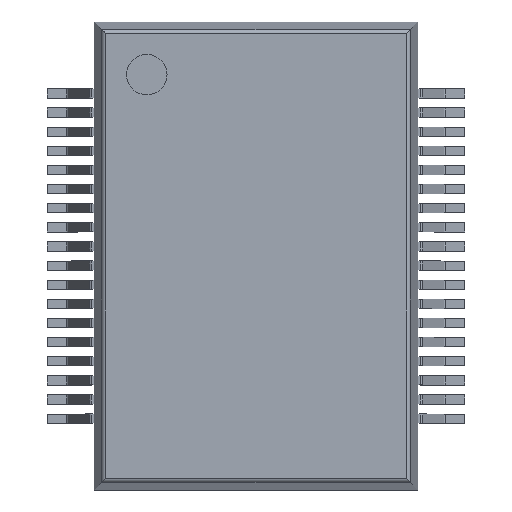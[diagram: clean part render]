
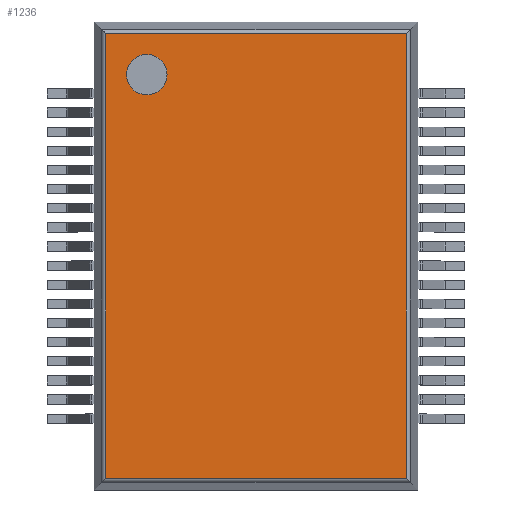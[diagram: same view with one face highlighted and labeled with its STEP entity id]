
A CAD part, top view. The second image highlights one B-rep face of the part: STEP entity #1236.
In plain terms, the highlighted planar face has unit normal (0, 0, 1).
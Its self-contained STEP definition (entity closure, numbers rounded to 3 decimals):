
#833 = CYLINDRICAL_SURFACE('',#834,0.14);
#834 = AXIS2_PLACEMENT_3D('',#835,#836,#837);
#835 = CARTESIAN_POINT('',(-5.105,-7.675,3.46));
#836 = DIRECTION('',(0.,1.,0.));
#837 = DIRECTION('',(-0.988,0.,0.156));
#975 = CYLINDRICAL_SURFACE('',#976,0.14);
#976 = AXIS2_PLACEMENT_3D('',#977,#978,#979);
#977 = CARTESIAN_POINT('',(-5.225,-7.555,3.46));
#978 = DIRECTION('',(1.,0.,0.));
#979 = DIRECTION('',(0.,-0.988,0.156));
#991 = VERTEX_POINT('',#992);
#992 = CARTESIAN_POINT('',(-5.105,-7.555,3.6));
#1026 = EDGE_CURVE('',#991,#1027,#1029,.T.);
#1027 = VERTEX_POINT('',#1028);
#1028 = CARTESIAN_POINT('',(-5.105,7.555,3.6));
#1029 = SURFACE_CURVE('',#1030,(#1034,#1041),.PCURVE_S1.);
#1030 = LINE('',#1031,#1032);
#1031 = CARTESIAN_POINT('',(-5.105,-7.675,3.6));
#1032 = VECTOR('',#1033,1.);
#1033 = DIRECTION('',(0.,1.,0.));
#1034 = PCURVE('',#833,#1035);
#1035 = DEFINITIONAL_REPRESENTATION('',(#1036),#1040);
#1036 = LINE('',#1037,#1038);
#1037 = CARTESIAN_POINT('',(1.414,0.));
#1038 = VECTOR('',#1039,1.);
#1039 = DIRECTION('',(0.,1.));
#1040 = ( GEOMETRIC_REPRESENTATION_CONTEXT(2) 
PARAMETRIC_REPRESENTATION_CONTEXT() REPRESENTATION_CONTEXT('2D SPACE',''
  ) );
#1041 = PCURVE('',#1042,#1047);
#1042 = PLANE('',#1043);
#1043 = AXIS2_PLACEMENT_3D('',#1044,#1045,#1046);
#1044 = CARTESIAN_POINT('',(-5.5,-7.95,3.6));
#1045 = DIRECTION('',(0.,0.,1.));
#1046 = DIRECTION('',(1.,0.,0.));
#1047 = DEFINITIONAL_REPRESENTATION('',(#1048),#1052);
#1048 = LINE('',#1049,#1050);
#1049 = CARTESIAN_POINT('',(0.395,0.275));
#1050 = VECTOR('',#1051,1.);
#1051 = DIRECTION('',(0.,1.));
#1052 = ( GEOMETRIC_REPRESENTATION_CONTEXT(2) 
PARAMETRIC_REPRESENTATION_CONTEXT() REPRESENTATION_CONTEXT('2D SPACE',''
  ) );
#1075 = CYLINDRICAL_SURFACE('',#1076,0.14);
#1076 = AXIS2_PLACEMENT_3D('',#1077,#1078,#1079);
#1077 = CARTESIAN_POINT('',(-5.225,7.555,3.46));
#1078 = DIRECTION('',(1.,0.,0.));
#1079 = DIRECTION('',(0.,0.,1.));
#1163 = CYLINDRICAL_SURFACE('',#1164,0.14);
#1164 = AXIS2_PLACEMENT_3D('',#1165,#1166,#1167);
#1165 = CARTESIAN_POINT('',(5.105,-7.675,3.46));
#1166 = DIRECTION('',(0.,1.,0.));
#1167 = DIRECTION('',(0.,0.,1.));
#1179 = EDGE_CURVE('',#991,#1180,#1182,.T.);
#1180 = VERTEX_POINT('',#1181);
#1181 = CARTESIAN_POINT('',(5.105,-7.555,3.6));
#1182 = SURFACE_CURVE('',#1183,(#1187,#1194),.PCURVE_S1.);
#1183 = LINE('',#1184,#1185);
#1184 = CARTESIAN_POINT('',(-5.225,-7.555,3.6));
#1185 = VECTOR('',#1186,1.);
#1186 = DIRECTION('',(1.,0.,0.));
#1187 = PCURVE('',#975,#1188);
#1188 = DEFINITIONAL_REPRESENTATION('',(#1189),#1193);
#1189 = LINE('',#1190,#1191);
#1190 = CARTESIAN_POINT('',(-1.414,0.));
#1191 = VECTOR('',#1192,1.);
#1192 = DIRECTION('',(-0.,1.));
#1193 = ( GEOMETRIC_REPRESENTATION_CONTEXT(2) 
PARAMETRIC_REPRESENTATION_CONTEXT() REPRESENTATION_CONTEXT('2D SPACE',''
  ) );
#1194 = PCURVE('',#1042,#1195);
#1195 = DEFINITIONAL_REPRESENTATION('',(#1196),#1200);
#1196 = LINE('',#1197,#1198);
#1197 = CARTESIAN_POINT('',(0.275,0.395));
#1198 = VECTOR('',#1199,1.);
#1199 = DIRECTION('',(1.,0.));
#1200 = ( GEOMETRIC_REPRESENTATION_CONTEXT(2) 
PARAMETRIC_REPRESENTATION_CONTEXT() REPRESENTATION_CONTEXT('2D SPACE',''
  ) );
#1236 = ADVANCED_FACE('',(#1237,#1285),#1042,.T.);
#1237 = FACE_BOUND('',#1238,.T.);
#1238 = EDGE_LOOP('',(#1239,#1240,#1241,#1264));
#1239 = ORIENTED_EDGE('',*,*,#1026,.F.);
#1240 = ORIENTED_EDGE('',*,*,#1179,.T.);
#1241 = ORIENTED_EDGE('',*,*,#1242,.T.);
#1242 = EDGE_CURVE('',#1180,#1243,#1245,.T.);
#1243 = VERTEX_POINT('',#1244);
#1244 = CARTESIAN_POINT('',(5.105,7.555,3.6));
#1245 = SURFACE_CURVE('',#1246,(#1250,#1257),.PCURVE_S1.);
#1246 = LINE('',#1247,#1248);
#1247 = CARTESIAN_POINT('',(5.105,-7.675,3.6));
#1248 = VECTOR('',#1249,1.);
#1249 = DIRECTION('',(0.,1.,0.));
#1250 = PCURVE('',#1042,#1251);
#1251 = DEFINITIONAL_REPRESENTATION('',(#1252),#1256);
#1252 = LINE('',#1253,#1254);
#1253 = CARTESIAN_POINT('',(10.605,0.275));
#1254 = VECTOR('',#1255,1.);
#1255 = DIRECTION('',(0.,1.));
#1256 = ( GEOMETRIC_REPRESENTATION_CONTEXT(2) 
PARAMETRIC_REPRESENTATION_CONTEXT() REPRESENTATION_CONTEXT('2D SPACE',''
  ) );
#1257 = PCURVE('',#1163,#1258);
#1258 = DEFINITIONAL_REPRESENTATION('',(#1259),#1263);
#1259 = LINE('',#1260,#1261);
#1260 = CARTESIAN_POINT('',(0.,0.));
#1261 = VECTOR('',#1262,1.);
#1262 = DIRECTION('',(0.,1.));
#1263 = ( GEOMETRIC_REPRESENTATION_CONTEXT(2) 
PARAMETRIC_REPRESENTATION_CONTEXT() REPRESENTATION_CONTEXT('2D SPACE',''
  ) );
#1264 = ORIENTED_EDGE('',*,*,#1265,.F.);
#1265 = EDGE_CURVE('',#1027,#1243,#1266,.T.);
#1266 = SURFACE_CURVE('',#1267,(#1271,#1278),.PCURVE_S1.);
#1267 = LINE('',#1268,#1269);
#1268 = CARTESIAN_POINT('',(-5.225,7.555,3.6));
#1269 = VECTOR('',#1270,1.);
#1270 = DIRECTION('',(1.,0.,0.));
#1271 = PCURVE('',#1042,#1272);
#1272 = DEFINITIONAL_REPRESENTATION('',(#1273),#1277);
#1273 = LINE('',#1274,#1275);
#1274 = CARTESIAN_POINT('',(0.275,15.505));
#1275 = VECTOR('',#1276,1.);
#1276 = DIRECTION('',(1.,0.));
#1277 = ( GEOMETRIC_REPRESENTATION_CONTEXT(2) 
PARAMETRIC_REPRESENTATION_CONTEXT() REPRESENTATION_CONTEXT('2D SPACE',''
  ) );
#1278 = PCURVE('',#1075,#1279);
#1279 = DEFINITIONAL_REPRESENTATION('',(#1280),#1284);
#1280 = LINE('',#1281,#1282);
#1281 = CARTESIAN_POINT('',(-0.,0.));
#1282 = VECTOR('',#1283,1.);
#1283 = DIRECTION('',(-0.,1.));
#1284 = ( GEOMETRIC_REPRESENTATION_CONTEXT(2) 
PARAMETRIC_REPRESENTATION_CONTEXT() REPRESENTATION_CONTEXT('2D SPACE',''
  ) );
#1285 = FACE_BOUND('',#1286,.T.);
#1286 = EDGE_LOOP('',(#1287));
#1287 = ORIENTED_EDGE('',*,*,#1288,.F.);
#1288 = EDGE_CURVE('',#1289,#1289,#1291,.T.);
#1289 = VERTEX_POINT('',#1290);
#1290 = CARTESIAN_POINT('',(-3.023,6.16,3.6));
#1291 = SURFACE_CURVE('',#1292,(#1297,#1304),.PCURVE_S1.);
#1292 = CIRCLE('',#1293,0.688);
#1293 = AXIS2_PLACEMENT_3D('',#1294,#1295,#1296);
#1294 = CARTESIAN_POINT('',(-3.71,6.16,3.6));
#1295 = DIRECTION('',(0.,0.,1.));
#1296 = DIRECTION('',(1.,0.,0.));
#1297 = PCURVE('',#1042,#1298);
#1298 = DEFINITIONAL_REPRESENTATION('',(#1299),#1303);
#1299 = CIRCLE('',#1300,0.688);
#1300 = AXIS2_PLACEMENT_2D('',#1301,#1302);
#1301 = CARTESIAN_POINT('',(1.79,14.11));
#1302 = DIRECTION('',(1.,0.));
#1303 = ( GEOMETRIC_REPRESENTATION_CONTEXT(2) 
PARAMETRIC_REPRESENTATION_CONTEXT() REPRESENTATION_CONTEXT('2D SPACE',''
  ) );
#1304 = PCURVE('',#1305,#1310);
#1305 = CYLINDRICAL_SURFACE('',#1306,0.688);
#1306 = AXIS2_PLACEMENT_3D('',#1307,#1308,#1309);
#1307 = CARTESIAN_POINT('',(-3.71,6.16,3.24));
#1308 = DIRECTION('',(0.,0.,1.));
#1309 = DIRECTION('',(1.,0.,0.));
#1310 = DEFINITIONAL_REPRESENTATION('',(#1311),#1315);
#1311 = LINE('',#1312,#1313);
#1312 = CARTESIAN_POINT('',(0.,0.36));
#1313 = VECTOR('',#1314,1.);
#1314 = DIRECTION('',(1.,0.));
#1315 = ( GEOMETRIC_REPRESENTATION_CONTEXT(2) 
PARAMETRIC_REPRESENTATION_CONTEXT() REPRESENTATION_CONTEXT('2D SPACE',''
  ) );
